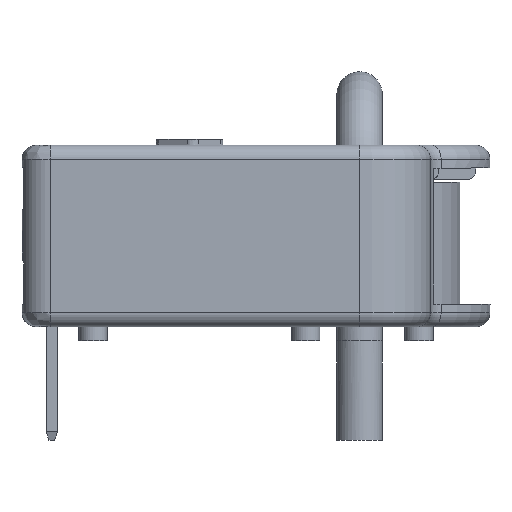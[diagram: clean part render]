
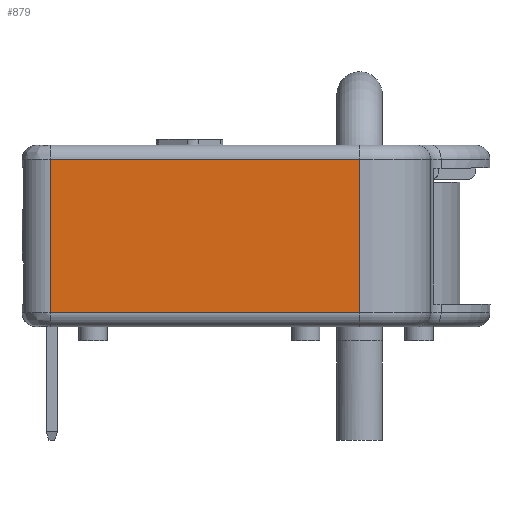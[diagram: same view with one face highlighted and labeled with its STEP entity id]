
A CAD part, front view. The second image highlights one B-rep face of the part: STEP entity #879.
In plain terms, the highlighted planar face has unit normal (0, -1, 0).
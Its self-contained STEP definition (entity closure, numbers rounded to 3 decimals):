
#879=ADVANCED_FACE('',(#1412),#1172,.F.);
#1172=PLANE('',#6065);
#1412=FACE_OUTER_BOUND('',#1699,.T.);
#1699=EDGE_LOOP('',(#2372,#2373,#2374,#2375));
#2372=ORIENTED_EDGE('',*,*,#4289,.T.);
#2373=ORIENTED_EDGE('',*,*,#4290,.T.);
#2374=ORIENTED_EDGE('',*,*,#4291,.F.);
#2375=ORIENTED_EDGE('',*,*,#4292,.T.);
#3776=VERTEX_POINT('',#8358);
#3777=VERTEX_POINT('',#8359);
#3778=VERTEX_POINT('',#8361);
#3779=VERTEX_POINT('',#8363);
#4289=EDGE_CURVE('',#3776,#3777,#4967,.T.);
#4290=EDGE_CURVE('',#3777,#3778,#4968,.T.);
#4291=EDGE_CURVE('',#3779,#3778,#4969,.T.);
#4292=EDGE_CURVE('',#3779,#3776,#4970,.T.);
#4967=LINE('',#8357,#5553);
#4968=LINE('',#8360,#5554);
#4969=LINE('',#8362,#5555);
#4970=LINE('',#8364,#5556);
#5553=VECTOR('',#6738,1.);
#5554=VECTOR('',#6739,1.);
#5555=VECTOR('',#6740,1.);
#5556=VECTOR('',#6741,1.);
#6065=AXIS2_PLACEMENT_3D('',#8365,#6742,#6743);
#6738=DIRECTION('',(0.,0.,-1.));
#6739=DIRECTION('',(1.,0.,0.));
#6740=DIRECTION('',(0.,0.,-1.));
#6741=DIRECTION('',(-1.,0.,0.));
#6742=DIRECTION('',(0.,1.,0.));
#6743=DIRECTION('',(-1.,0.,0.));
#8357=CARTESIAN_POINT('',(-10.9,-5.5,5.7));
#8358=CARTESIAN_POINT('',(-10.9,-5.5,5.2));
#8359=CARTESIAN_POINT('',(-10.9,-5.5,-0.2));
#8360=CARTESIAN_POINT('',(-10.9,-5.5,-0.2));
#8361=CARTESIAN_POINT('',(0.,-5.5,-0.2));
#8362=CARTESIAN_POINT('',(0.,-5.5,5.7));
#8363=CARTESIAN_POINT('',(0.,-5.5,5.2));
#8364=CARTESIAN_POINT('',(-10.9,-5.5,5.2));
#8365=CARTESIAN_POINT('',(-10.9,-5.5,5.7));
